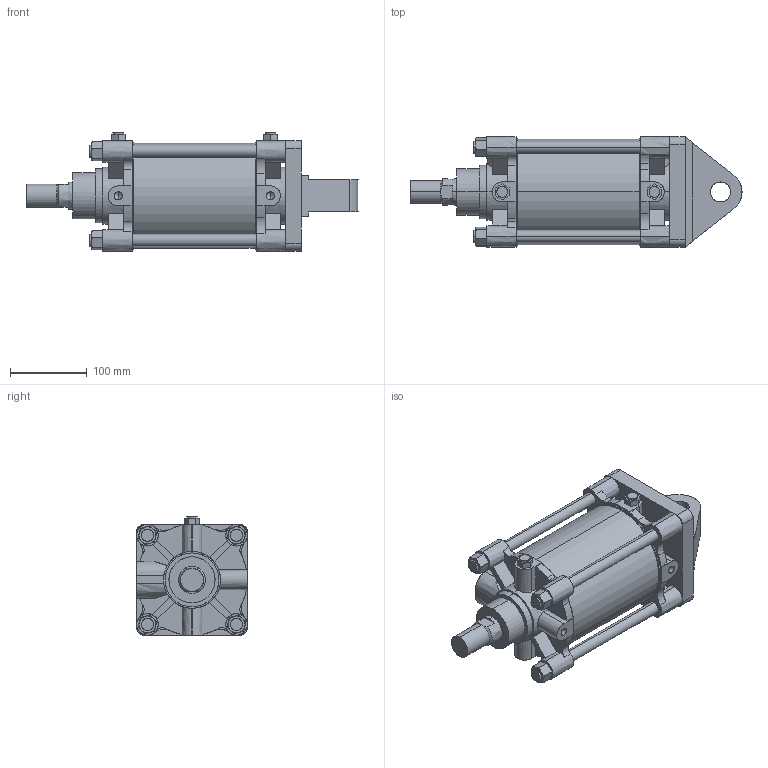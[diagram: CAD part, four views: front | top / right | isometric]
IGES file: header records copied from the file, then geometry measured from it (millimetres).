
Start section: SolidWorks IGES file using analytic representation for surfaces
Global section: file name: C:\Users\Toshiba\Desktop\A##2-125#-100-C.IGS; native system: SolidWorks 2014; preprocessor: SolidWorks 2014; author: Toshiba; date: 160331.145055; units: millimetre
Bounding box: 432 x 144 x 154 mm (x, y, z)
Surface area: 418370.2 mm2 (no closed solid volume)
Topology: 0 solids, 0 shells, 357 faces, 6670 edges, 6658 vertices
Faces by surface type: bspline 192, revolution 165
